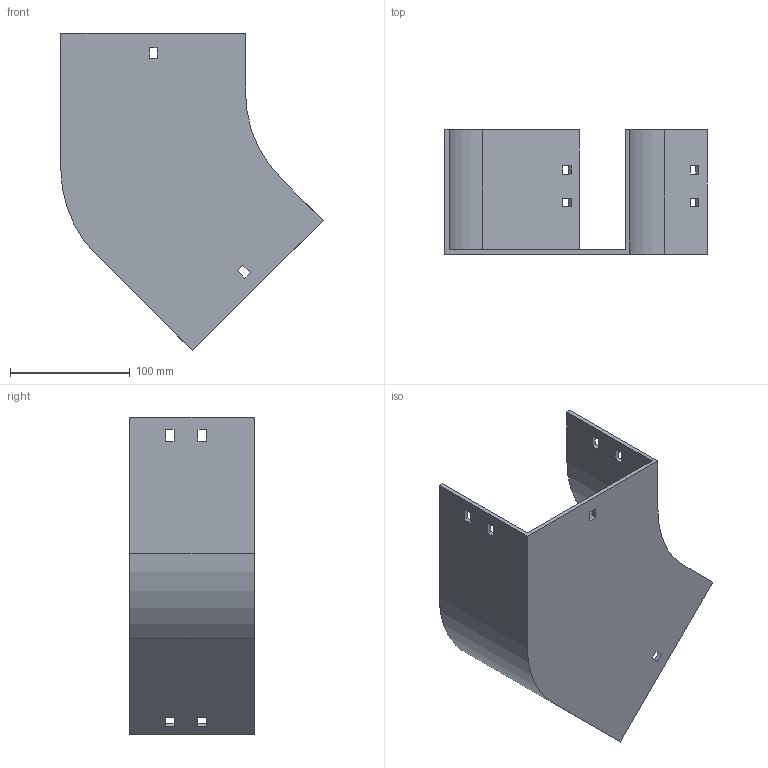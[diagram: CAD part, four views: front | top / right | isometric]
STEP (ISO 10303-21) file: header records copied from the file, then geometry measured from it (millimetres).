
FILE_DESCRIPTION (( 'STEP AP214' ), '1' );
FILE_NAME ('11B1D150.step', '2025-02-21T09:36:36', ( '' ), ( '' ), 'SwSTEP 2.0', 'SolidWorks 2023', '' );
FILE_SCHEMA (( 'AUTOMOTIVE_DESIGN' ));
Length unit declared in the file: millimetre
Products named in the file (1): 11B1D150
Bounding box: 218.64 x 104 x 264.96 mm (x, y, z)
Volume: 301043.2 mm3; surface area: 177375 mm2
Topology: 1 solids, 1 shells, 58 faces, 168 edges, 112 vertices
Faces by surface type: plane 54, cylinder 4
Entity records: 1943 total; most frequent: CARTESIAN_POINT 339, ORIENTED_EDGE 336, DIRECTION 294, EDGE_CURVE 168, VECTOR 160, LINE 160, VERTEX_POINT 112, EDGE_LOOP 78
